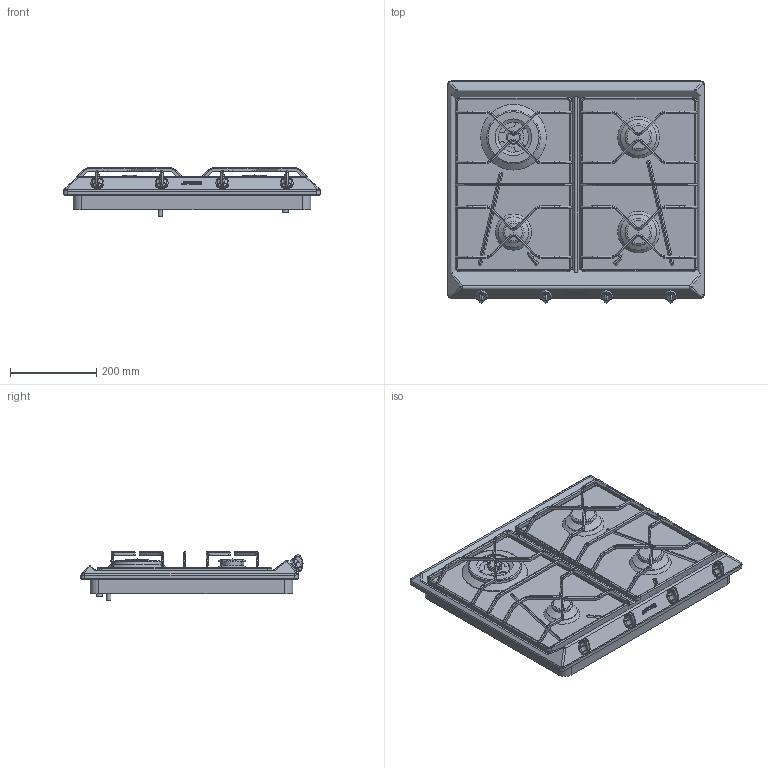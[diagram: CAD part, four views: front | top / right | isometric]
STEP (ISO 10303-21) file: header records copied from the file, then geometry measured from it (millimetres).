
FILE_DESCRIPTION(/* description */ (''),/* implementation_level */ '2;1');
FILE_NAME(/* name */ 'piano srv564-3.stp',/* time_stamp */ '2018-10-03T10:49:59+02:00',/* author */ (''),/* organization */ (''),/* preprocessor_version */ 'ST-DEVELOPER v16',/* originating_system */ 'SIEMENS PLM Software NX 11.0',/* authorisation */ '');
FILE_SCHEMA (('AUTOMOTIVE_DESIGN { 1 0 10303 214 3 1 1 1 }'));
Length unit declared in the file: millimetre
Products named in the file (1): gobb784CE7310gqt
Bounding box: 596 x 514.96 x 112.3 mm (x, y, z)
Volume: 14511561 mm3; surface area: 1657820.7 mm2
Topology: 38 solids, 38 shells, 1131 faces, 2615 edges, 1592 vertices
Faces by surface type: cylinder 393, plane 330, bspline 220, torus 145, cone 20, sphere 12, extrusion 11
Full cylindrical faces by diameter (mm): 3.988 x6, 10 x5, 14 x2, 20 x4, 23 x1, 23.5 x1, 26 x1, 28 x1, 32 x1, 42 x1, 43 x1, 55 x2, 56 x2, 70.5 x1, 79.5 x1, 83 x2, 85 x1, 89.5 x1, 90 x1, 98.5 x1, 106.5 x1, 111 x1, 113.5 x1, 122 x1, 124 x1, 152 x1
Entity records: 34869 total; most frequent: CARTESIAN_POINT 10104, DIRECTION 5140, ORIENTED_EDGE 5010, EDGE_CURVE 2505, AXIS2_PLACEMENT_3D 2080, VERTEX_POINT 1542, EDGE_LOOP 1239, ADVANCED_FACE 1131
